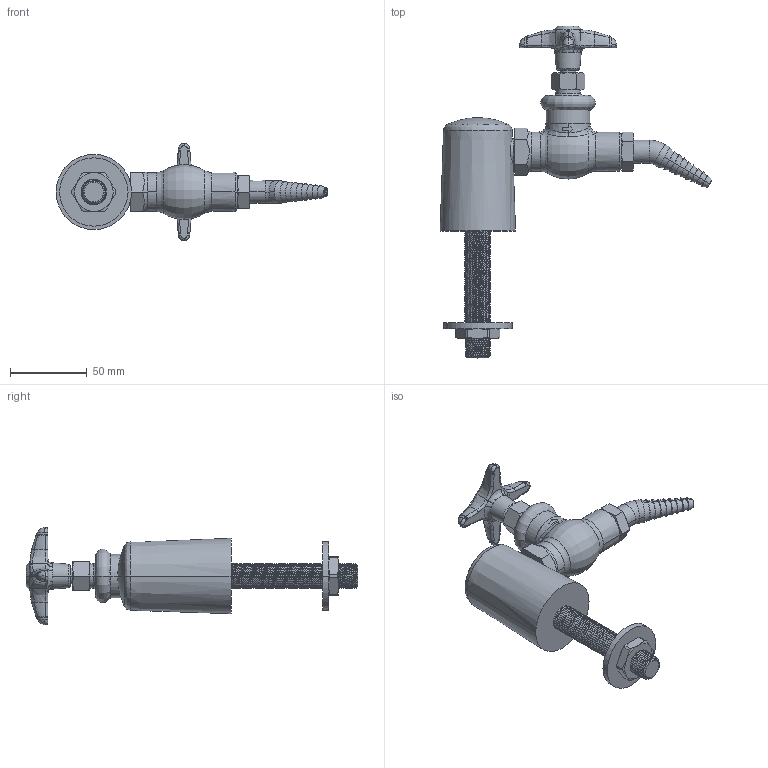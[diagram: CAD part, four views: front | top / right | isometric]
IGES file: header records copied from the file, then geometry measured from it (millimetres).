
Start section:  PTC IGES file: LGF1-A21C-10.igs
Global section: file name: LGF1-A21C-10.igs; native system: Creo Parametric by PTC Inc.; preprocessor: 2014500; author: usch_engrender; organization: Unknown; date: 20160106.132722; units: inch
Bounding box: 176.69 x 215.83 x 63.41 mm (x, y, z)
Volume: 216165.8 mm3; surface area: 49453.7 mm2
Topology: 1 solids, 8 shells, 579 faces, 1431 edges, 884 vertices
Faces by surface type: bspline 304, revolution 275
